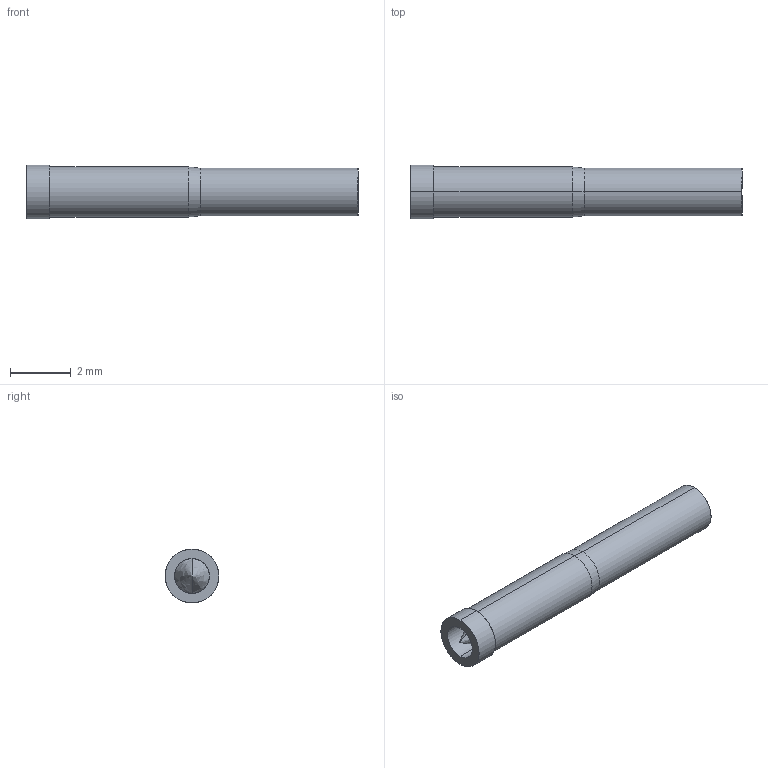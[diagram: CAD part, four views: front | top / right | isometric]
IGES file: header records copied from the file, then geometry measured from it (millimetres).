
Start section: SolidWorks IGES file using analytic representation for surfaces
Global section: file name: O:\PYLON\IGES FILES\E-S\E-S-C FULL.IGS; native system: SolidWorks 2015; preprocessor: SolidWorks 2015; author: kgolden; date: 171024.083116; units: inch
Bounding box: 10.95 x 1.78 x 1.78 mm (x, y, z)
Surface area: 74.3 mm2 (no closed solid volume)
Topology: 0 solids, 0 shells, 18 faces, 200 edges, 198 vertices
Faces by surface type: revolution 14, bspline 4
